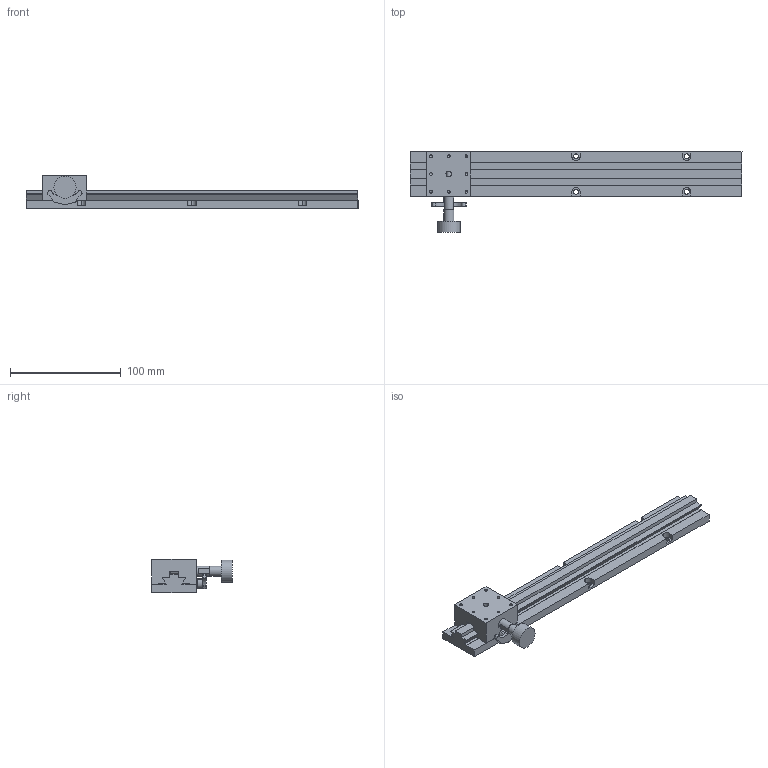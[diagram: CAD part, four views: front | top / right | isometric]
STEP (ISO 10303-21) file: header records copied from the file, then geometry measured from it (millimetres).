
FILE_DESCRIPTION( ( 'STEP AP203' ), '1' );
FILE_NAME( 'C:/3D-Trans/3D_BDLXR-40260+080811.step', '2008-08-11T08:28:19', ( ' ' ), ( ' ' ), 'XStep 1.0', ' ', ' ' );
FILE_SCHEMA( ( 'CONFIG_CONTROL_DESIGN' ) );
Length unit declared in the file: millimetre
Products named in the file (3): 1; 2; 3
Bounding box: 300 x 72.5 x 30 mm (x, y, z)
Volume: 160690.9 mm3; surface area: 49432 mm2
Topology: 3 solids, 3 shells, 152 faces, 406 edges, 268 vertices
Faces by surface type: plane 79, cylinder 65, cone 8
Full cylindrical faces by diameter (mm): 2.5 x16, 4 x1, 4.5 x8, 4.7 x1, 5 x2, 7.2 x2, 8.2 x1, 9 x2, 20 x1
Entity records: 4644 total; most frequent: CARTESIAN_POINT 864, DIRECTION 770, ORIENTED_EDGE 684, EDGE_CURVE 342, AXIS2_PLACEMENT_3D 280, VERTEX_POINT 256, EDGE_LOOP 219, LINE 210
